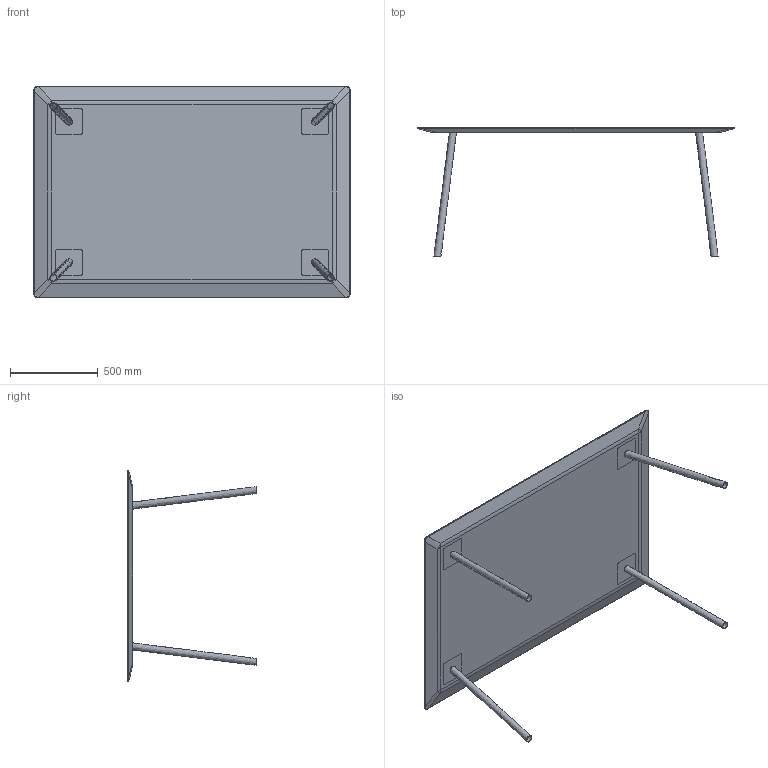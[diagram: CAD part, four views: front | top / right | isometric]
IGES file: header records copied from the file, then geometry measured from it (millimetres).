
Start section: SolidWorks IGES file using NURBS representation for surfaces
Global section: file name: W:\01-VICCARBE\PRODUCTOS\48-MAARTEN MESA\04-MODELADOS (PLANOS)\2-WEB\Piezas\IGS\VICCARBE_Maarten_180x120.IGS; native system: SolidWorks 2013; preprocessor: SolidWorks 2013; author: Usuario; date: 140904.103215; units: millimetre
Bounding box: 1800 x 734 x 1200 mm (x, y, z)
Surface area: 5256072.2 mm2 (no closed solid volume)
Topology: 0 solids, 0 shells, 110 faces, 512 edges, 496 vertices
Faces by surface type: bspline 110
